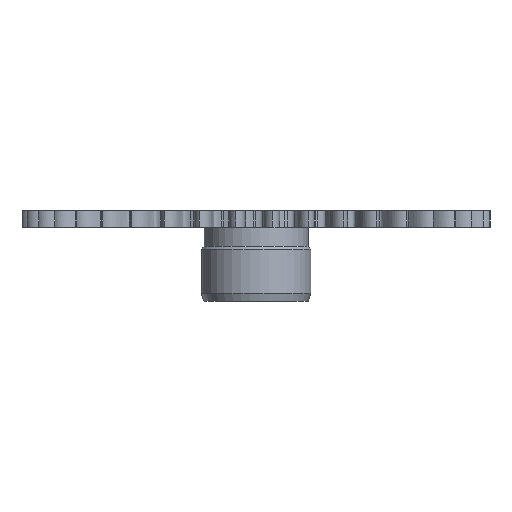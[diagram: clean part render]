
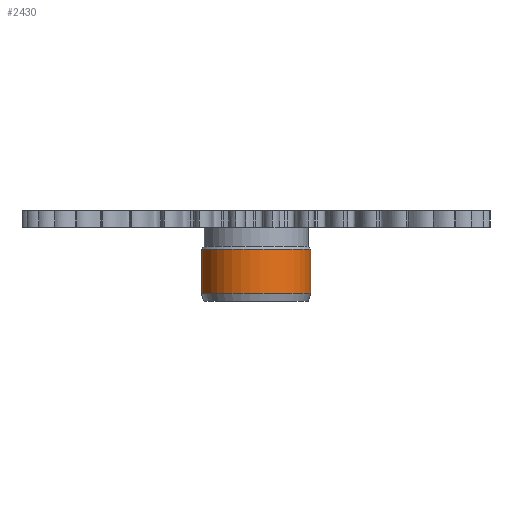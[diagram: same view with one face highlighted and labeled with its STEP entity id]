
A CAD part, front view. The second image highlights one B-rep face of the part: STEP entity #2430.
In plain terms, the highlighted cylindrical face has radius 5.8 mm (diameter 11.6 mm), a full revolution.
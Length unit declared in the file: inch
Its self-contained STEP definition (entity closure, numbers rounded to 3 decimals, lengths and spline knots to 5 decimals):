
#264=FACE_OUTER_BOUND('',#392,.T.);
#392=EDGE_LOOP('',(#1510,#1511,#1512,#1513,#1514,#1515));
#523=LINE('',#3152,#648);
#648=VECTOR('',#2744,0.22835);
#775=CIRCLE('',#2582,0.22835);
#778=CIRCLE('',#2585,0.22835);
#779=CIRCLE('',#2587,0.22835);
#780=CIRCLE('',#2588,0.22835);
#869=VERTEX_POINT('',#3141);
#870=VERTEX_POINT('',#3142);
#873=VERTEX_POINT('',#3151);
#874=VERTEX_POINT('',#3153);
#1124=EDGE_CURVE('',#869,#870,#775,.T.);
#1128=EDGE_CURVE('',#870,#869,#778,.T.);
#1129=EDGE_CURVE('',#869,#873,#523,.T.);
#1130=EDGE_CURVE('',#873,#874,#779,.T.);
#1131=EDGE_CURVE('',#874,#873,#780,.T.);
#1510=ORIENTED_EDGE('',*,*,#1124,.F.);
#1511=ORIENTED_EDGE('',*,*,#1129,.T.);
#1512=ORIENTED_EDGE('',*,*,#1130,.T.);
#1513=ORIENTED_EDGE('',*,*,#1131,.T.);
#1514=ORIENTED_EDGE('',*,*,#1129,.F.);
#1515=ORIENTED_EDGE('',*,*,#1128,.F.);
#2257=CYLINDRICAL_SURFACE('',#2586,0.22835);
#2430=ADVANCED_FACE('',(#264),#2257,.T.);
#2582=AXIS2_PLACEMENT_3D('',#3143,#2733,#2734);
#2585=AXIS2_PLACEMENT_3D('',#3149,#2740,#2741);
#2586=AXIS2_PLACEMENT_3D('',#3150,#2742,#2743);
#2587=AXIS2_PLACEMENT_3D('',#3154,#2745,#2746);
#2588=AXIS2_PLACEMENT_3D('',#3155,#2747,#2748);
#2733=DIRECTION('center_axis',(0.,0.,
-1.));
#2734=DIRECTION('ref_axis',(0.998,0.07,0.));
#2740=DIRECTION('center_axis',(0.,0.,
-1.));
#2741=DIRECTION('ref_axis',(0.998,0.07,0.));
#2742=DIRECTION('center_axis',(0.,0.,
-1.));
#2743=DIRECTION('ref_axis',(0.998,0.07,0.));
#2744=DIRECTION('',(0.,0.,1.));
#2745=DIRECTION('center_axis',(0.,0.,
-1.));
#2746=DIRECTION('ref_axis',(0.998,0.07,0.));
#2747=DIRECTION('center_axis',(0.,0.,
-1.));
#2748=DIRECTION('ref_axis',(0.998,0.07,0.));
#3141=CARTESIAN_POINT('',(-0.22779,-0.01593,-0.77638));
#3142=CARTESIAN_POINT('',(0.22779,0.01593,-0.77638));
#3143=CARTESIAN_POINT('Origin',(0.,0.,
-0.77638));
#3149=CARTESIAN_POINT('Origin',(0.,0.,
-0.77638));
#3150=CARTESIAN_POINT('Origin',(0.,0.,
-0.43386));
#3151=CARTESIAN_POINT('',(-0.22779,-0.01593,-0.5937));
#3152=CARTESIAN_POINT('',(-0.22779,-0.01593,-0.43386));
#3153=CARTESIAN_POINT('',(0.22779,0.01593,-0.5937));
#3154=CARTESIAN_POINT('Origin',(0.,0.,
-0.5937));
#3155=CARTESIAN_POINT('Origin',(0.,0.,
-0.5937));
